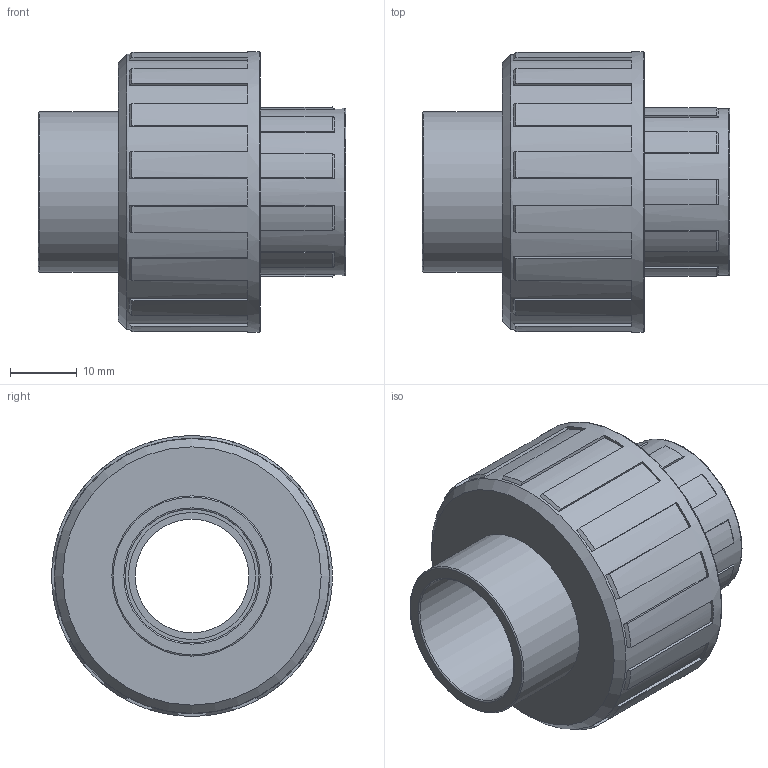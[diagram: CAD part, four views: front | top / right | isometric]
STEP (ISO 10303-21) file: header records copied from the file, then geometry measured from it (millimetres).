
FILE_DESCRIPTION(/* description */ ('PLASSON UNION+O RING THR-CEM 20-1/2"'),/* implementation_level */ '2;1');
FILE_NAME(/* name */ 'C:\Dropbox\KIMPROJECTS-Inventor\99-16-3568-Processing\PVC Catalog 2017\050802\050802020005.ipt.stp',/* time_stamp */ '2017-12-07T15:58:14+02:00',/* author */ ('KIM'),/* organization */ (''),/* preprocessor_version */ 'ST-DEVELOPER v15.6',/* originating_system */ 'Autodesk Inventor 2015',/* authorisation */ '');
FILE_SCHEMA (('AUTOMOTIVE_DESIGN { 1 0 10303 214 3 1 1 }'));
Length unit declared in the file: millimetre
Products named in the file (1): 050802020005
Bounding box: 46 x 42 x 42 mm (x, y, z)
Volume: 27873.7 mm3; surface area: 9856.6 mm2
Topology: 1 solids, 1 shells, 125 faces, 348 edges, 230 vertices
Faces by surface type: plane 75, cone 27, cylinder 18, torus 5
Full cylindrical faces by diameter (mm): 17 x1, 18.631 x1, 19 x1, 20 x1, 24 x1, 25 x1, 41.16 x1, 42 x1
Entity records: 3968 total; most frequent: DIRECTION 706, CARTESIAN_POINT 684, ORIENTED_EDGE 662, EDGE_CURVE 331, AXIS2_PLACEMENT_3D 249, VERTEX_POINT 227, LINE 208, VECTOR 208
